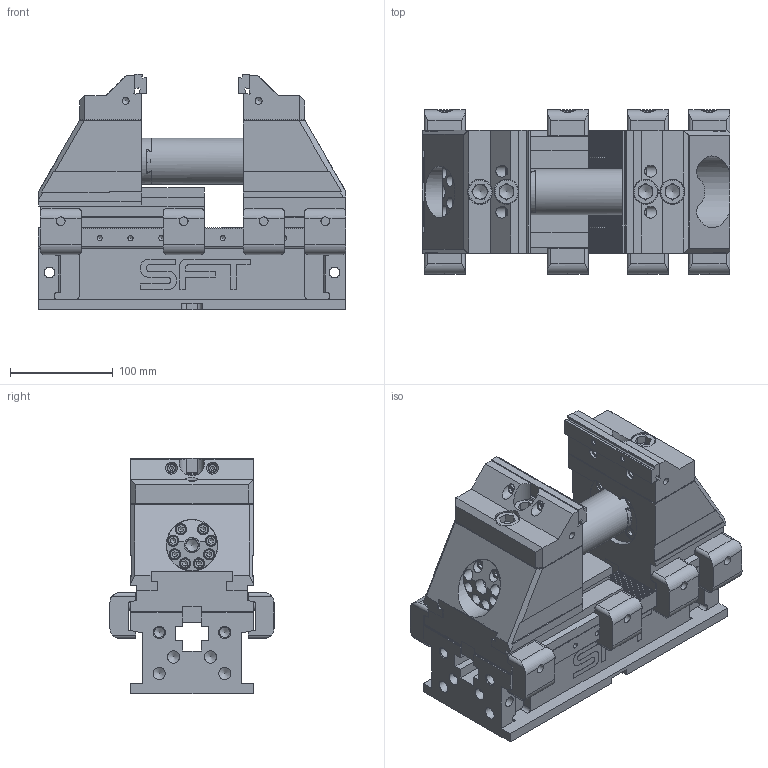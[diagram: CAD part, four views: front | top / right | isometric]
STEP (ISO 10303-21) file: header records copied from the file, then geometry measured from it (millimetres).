
FILE_DESCRIPTION((''),'2;1');
FILE_NAME('C:\Users\User\Desktop\Mastercam-harjoitukset\Y5A300.120.129\Y5A300.120.129.stp','2020-03-26T20:46:56',(''),(''),'STEP Write','Mastercam 2020 ... CNC Software, Inc.','');
FILE_SCHEMA(('AUTOMOTIVE_DESIGN'));
Length unit declared in the file: millimetre
Products named in the file (1): None
Bounding box: 300 x 160.02 x 230 mm (x, y, z)
Volume: 5233704.4 mm3; surface area: 748871.5 mm2
Topology: 57 solids, 57 shells, 3376 faces, 9404 edges, 6176 vertices
Faces by surface type: plane 2683, cylinder 462, cone 175, torus 54, sphere 2
Full cylindrical faces by diameter (mm): 3 x4, 4.3 x1, 4.5 x1, 5 x46, 5.1 x4, 5.5 x4, 6 x8, 6.05 x1, 6.1 x3, 6.4 x14, 6.8 x18, 8 x7, 8.4 x5, 8.5 x10, 10 x18, 10.2 x4, 10.3 x10, 10.5 x4, 11 x14, 11.47 x4, 12 x8, 13 x8, 14 x9, 15 x1, 16 x8, 17 x7, 18 x4, 18.5 x3, 19 x1, 19.2 x1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
Entity records: 109166 total; most frequent: CARTESIAN_POINT 22307, ORIENTED_EDGE 17330, DIRECTION 16331, EDGE_CURVE 8665, VECTOR 6771, LINE 6771, VERTEX_POINT 5937, AXIS2_PLACEMENT_3D 4780
